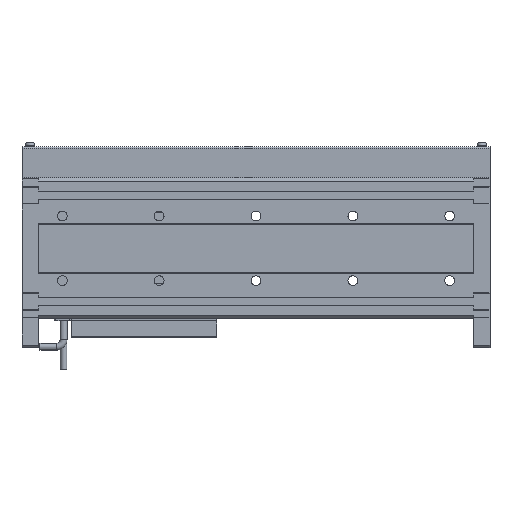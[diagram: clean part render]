
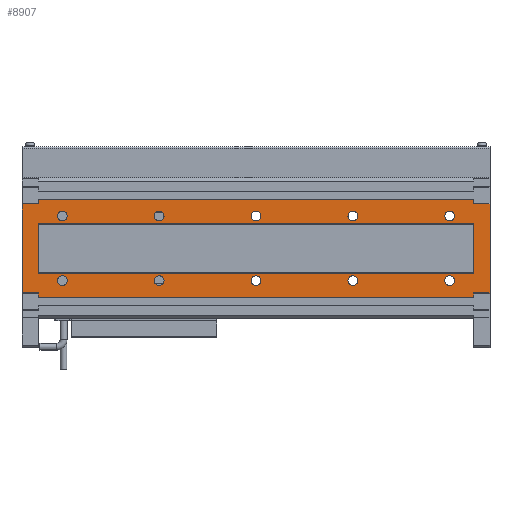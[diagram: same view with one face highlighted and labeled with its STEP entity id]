
A CAD part, front view. The second image highlights one B-rep face of the part: STEP entity #8907.
In plain terms, the highlighted planar face has unit normal (0, -1, 0).
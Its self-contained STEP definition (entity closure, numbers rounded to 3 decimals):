
#163=CIRCLE('',#9491,3.);
#164=CIRCLE('',#9492,3.);
#165=CIRCLE('',#9493,3.);
#166=CIRCLE('',#9494,3.);
#167=CIRCLE('',#9495,3.);
#168=CIRCLE('',#9496,3.);
#169=CIRCLE('',#9497,3.);
#170=CIRCLE('',#9498,3.);
#171=CIRCLE('',#9499,3.);
#172=CIRCLE('',#9500,3.);
#576=ORIENTED_EDGE('',*,*,#3093,.F.);
#577=ORIENTED_EDGE('',*,*,#3094,.F.);
#578=ORIENTED_EDGE('',*,*,#3095,.F.);
#579=ORIENTED_EDGE('',*,*,#3096,.F.);
#580=ORIENTED_EDGE('',*,*,#3097,.F.);
#581=ORIENTED_EDGE('',*,*,#3098,.F.);
#582=ORIENTED_EDGE('',*,*,#3099,.F.);
#583=ORIENTED_EDGE('',*,*,#3100,.F.);
#584=ORIENTED_EDGE('',*,*,#3101,.F.);
#585=ORIENTED_EDGE('',*,*,#3102,.F.);
#586=ORIENTED_EDGE('',*,*,#3084,.T.);
#587=ORIENTED_EDGE('',*,*,#3103,.T.);
#588=ORIENTED_EDGE('',*,*,#3092,.F.);
#589=ORIENTED_EDGE('',*,*,#3104,.F.);
#590=ORIENTED_EDGE('',*,*,#2991,.F.);
#591=ORIENTED_EDGE('',*,*,#3105,.T.);
#592=ORIENTED_EDGE('',*,*,#3106,.F.);
#593=ORIENTED_EDGE('',*,*,#3107,.F.);
#594=ORIENTED_EDGE('',*,*,#2987,.F.);
#595=ORIENTED_EDGE('',*,*,#3082,.F.);
#596=ORIENTED_EDGE('',*,*,#3024,.T.);
#597=ORIENTED_EDGE('',*,*,#3108,.F.);
#598=ORIENTED_EDGE('',*,*,#3109,.T.);
#599=ORIENTED_EDGE('',*,*,#3110,.T.);
#600=ORIENTED_EDGE('',*,*,#3029,.T.);
#601=ORIENTED_EDGE('',*,*,#3111,.T.);
#2987=EDGE_CURVE('',#4239,#4240,#5075,.T.);
#2991=EDGE_CURVE('',#4242,#4244,#5079,.T.);
#3024=EDGE_CURVE('',#4277,#4276,#5112,.T.);
#3029=EDGE_CURVE('',#4281,#4282,#5117,.T.);
#3082=EDGE_CURVE('',#4277,#4239,#5170,.T.);
#3084=EDGE_CURVE('',#4317,#4315,#5172,.T.);
#3092=EDGE_CURVE('',#4322,#4321,#5180,.T.);
#3093=EDGE_CURVE('',#4323,#4323,#163,.T.);
#3094=EDGE_CURVE('',#4324,#4324,#164,.T.);
#3095=EDGE_CURVE('',#4325,#4325,#165,.T.);
#3096=EDGE_CURVE('',#4326,#4326,#166,.T.);
#3097=EDGE_CURVE('',#4327,#4327,#167,.T.);
#3098=EDGE_CURVE('',#4328,#4328,#168,.T.);
#3099=EDGE_CURVE('',#4329,#4329,#169,.T.);
#3100=EDGE_CURVE('',#4330,#4330,#170,.T.);
#3101=EDGE_CURVE('',#4331,#4331,#171,.T.);
#3102=EDGE_CURVE('',#4332,#4332,#172,.T.);
#3103=EDGE_CURVE('',#4315,#4321,#5181,.T.);
#3104=EDGE_CURVE('',#4317,#4322,#5182,.T.);
#3105=EDGE_CURVE('',#4242,#4333,#5183,.T.);
#3106=EDGE_CURVE('',#4334,#4333,#5184,.T.);
#3107=EDGE_CURVE('',#4240,#4334,#5185,.T.);
#3108=EDGE_CURVE('',#4335,#4276,#5186,.T.);
#3109=EDGE_CURVE('',#4335,#4336,#5187,.T.);
#3110=EDGE_CURVE('',#4336,#4281,#5188,.T.);
#3111=EDGE_CURVE('',#4282,#4244,#5189,.T.);
#4239=VERTEX_POINT('',#12795);
#4240=VERTEX_POINT('',#12797);
#4242=VERTEX_POINT('',#12803);
#4244=VERTEX_POINT('',#12806);
#4276=VERTEX_POINT('',#12874);
#4277=VERTEX_POINT('',#12876);
#4281=VERTEX_POINT('',#12886);
#4282=VERTEX_POINT('',#12887);
#4315=VERTEX_POINT('',#12991);
#4317=VERTEX_POINT('',#12994);
#4321=VERTEX_POINT('',#13006);
#4322=VERTEX_POINT('',#13008);
#4323=VERTEX_POINT('',#13012);
#4324=VERTEX_POINT('',#13014);
#4325=VERTEX_POINT('',#13016);
#4326=VERTEX_POINT('',#13018);
#4327=VERTEX_POINT('',#13020);
#4328=VERTEX_POINT('',#13022);
#4329=VERTEX_POINT('',#13024);
#4330=VERTEX_POINT('',#13026);
#4331=VERTEX_POINT('',#13028);
#4332=VERTEX_POINT('',#13030);
#4333=VERTEX_POINT('',#13034);
#4334=VERTEX_POINT('',#13036);
#4335=VERTEX_POINT('',#13039);
#4336=VERTEX_POINT('',#13041);
#5075=LINE('',#12796,#6179);
#5079=LINE('',#12805,#6183);
#5112=LINE('',#12875,#6216);
#5117=LINE('',#12885,#6221);
#5170=LINE('',#12988,#6274);
#5172=LINE('',#12993,#6276);
#5180=LINE('',#13009,#6284);
#5181=LINE('',#13031,#6285);
#5182=LINE('',#13032,#6286);
#5183=LINE('',#13033,#6287);
#5184=LINE('',#13035,#6288);
#5185=LINE('',#13037,#6289);
#5186=LINE('',#13038,#6290);
#5187=LINE('',#13040,#6291);
#5188=LINE('',#13042,#6292);
#5189=LINE('',#13043,#6293);
#6179=VECTOR('',#10326,1000.);
#6183=VECTOR('',#10332,1000.);
#6216=VECTOR('',#10373,1000.);
#6221=VECTOR('',#10380,1000.);
#6274=VECTOR('',#10465,1000.);
#6276=VECTOR('',#10469,1000.);
#6284=VECTOR('',#10481,1000.);
#6285=VECTOR('',#10504,1000.);
#6286=VECTOR('',#10505,1000.);
#6287=VECTOR('',#10506,1000.);
#6288=VECTOR('',#10507,1000.);
#6289=VECTOR('',#10508,1000.);
#6290=VECTOR('',#10509,1000.);
#6291=VECTOR('',#10510,1000.);
#6292=VECTOR('',#10511,1000.);
#6293=VECTOR('',#10512,1000.);
#7275=EDGE_LOOP('',(#576));
#7276=EDGE_LOOP('',(#577));
#7277=EDGE_LOOP('',(#578));
#7278=EDGE_LOOP('',(#579));
#7279=EDGE_LOOP('',(#580));
#7280=EDGE_LOOP('',(#581));
#7281=EDGE_LOOP('',(#582));
#7282=EDGE_LOOP('',(#583));
#7283=EDGE_LOOP('',(#584));
#7284=EDGE_LOOP('',(#585));
#7285=EDGE_LOOP('',(#586,#587,#588,#589));
#7286=EDGE_LOOP('',(#590,#591,#592,#593,#594,#595,#596,#597,#598,#599,#600,
#601));
#7873=FACE_BOUND('',#7275,.T.);
#7874=FACE_BOUND('',#7276,.T.);
#7875=FACE_BOUND('',#7277,.T.);
#7876=FACE_BOUND('',#7278,.T.);
#7877=FACE_BOUND('',#7279,.T.);
#7878=FACE_BOUND('',#7280,.T.);
#7879=FACE_BOUND('',#7281,.T.);
#7880=FACE_BOUND('',#7282,.T.);
#7881=FACE_BOUND('',#7283,.T.);
#7882=FACE_BOUND('',#7284,.T.);
#7883=FACE_BOUND('',#7285,.T.);
#7884=FACE_BOUND('',#7286,.T.);
#8475=PLANE('',#9490);
#8907=ADVANCED_FACE('',(#7873,#7874,#7875,#7876,#7877,#7878,#7879,#7880,
#7881,#7882,#7883,#7884),#8475,.T.);
#9490=AXIS2_PLACEMENT_3D('',#13010,#10482,#10483);
#9491=AXIS2_PLACEMENT_3D('',#13011,#10484,#10485);
#9492=AXIS2_PLACEMENT_3D('',#13013,#10486,#10487);
#9493=AXIS2_PLACEMENT_3D('',#13015,#10488,#10489);
#9494=AXIS2_PLACEMENT_3D('',#13017,#10490,#10491);
#9495=AXIS2_PLACEMENT_3D('',#13019,#10492,#10493);
#9496=AXIS2_PLACEMENT_3D('',#13021,#10494,#10495);
#9497=AXIS2_PLACEMENT_3D('',#13023,#10496,#10497);
#9498=AXIS2_PLACEMENT_3D('',#13025,#10498,#10499);
#9499=AXIS2_PLACEMENT_3D('',#13027,#10500,#10501);
#9500=AXIS2_PLACEMENT_3D('',#13029,#10502,#10503);
#10326=DIRECTION('',(0.,0.,-1.));
#10332=DIRECTION('',(0.,0.,-1.));
#10373=DIRECTION('',(0.,0.,-1.));
#10380=DIRECTION('',(0.,0.,-1.));
#10465=DIRECTION('',(1.,0.,0.));
#10469=DIRECTION('',(1.,0.,0.));
#10481=DIRECTION('',(1.,0.,0.));
#10482=DIRECTION('',(0.,-1.,0.));
#10483=DIRECTION('',(0.,0.,-1.));
#10484=DIRECTION('',(0.,-1.,0.));
#10485=DIRECTION('',(0.,0.,-1.));
#10486=DIRECTION('',(0.,-1.,0.));
#10487=DIRECTION('',(0.,0.,-1.));
#10488=DIRECTION('',(0.,-1.,0.));
#10489=DIRECTION('',(0.,0.,-1.));
#10490=DIRECTION('',(0.,-1.,0.));
#10491=DIRECTION('',(0.,0.,-1.));
#10492=DIRECTION('',(0.,-1.,0.));
#10493=DIRECTION('',(0.,0.,-1.));
#10494=DIRECTION('',(0.,-1.,0.));
#10495=DIRECTION('',(0.,0.,-1.));
#10496=DIRECTION('',(0.,-1.,0.));
#10497=DIRECTION('',(0.,0.,-1.));
#10498=DIRECTION('',(0.,-1.,0.));
#10499=DIRECTION('',(0.,0.,-1.));
#10500=DIRECTION('',(0.,-1.,0.));
#10501=DIRECTION('',(0.,0.,-1.));
#10502=DIRECTION('',(0.,-1.,0.));
#10503=DIRECTION('',(0.,0.,-1.));
#10504=DIRECTION('',(0.,0.,-1.));
#10505=DIRECTION('',(0.,0.,-1.));
#10506=DIRECTION('',(1.,0.,0.));
#10507=DIRECTION('',(0.,0.,-1.));
#10508=DIRECTION('',(1.,0.,0.));
#10509=DIRECTION('',(1.,0.,0.));
#10510=DIRECTION('',(0.,0.,-1.));
#10511=DIRECTION('',(1.,0.,0.));
#10512=DIRECTION('',(1.,0.,0.));
#12795=CARTESIAN_POINT('',(-10.,0.,30.5));
#12796=CARTESIAN_POINT('',(-10.,0.,30.5));
#12797=CARTESIAN_POINT('',(-10.,0.,27.5));
#12803=CARTESIAN_POINT('',(-10.,0.,-27.5));
#12805=CARTESIAN_POINT('',(-10.,0.,-15.5));
#12806=CARTESIAN_POINT('',(-10.,0.,-30.5));
#12874=CARTESIAN_POINT('',(-280.,0.,27.5));
#12875=CARTESIAN_POINT('',(-280.,0.,30.5));
#12876=CARTESIAN_POINT('',(-280.,0.,30.5));
#12885=CARTESIAN_POINT('',(-280.,0.,-15.5));
#12886=CARTESIAN_POINT('',(-280.,0.,-27.5));
#12887=CARTESIAN_POINT('',(-280.,0.,-30.5));
#12988=CARTESIAN_POINT('',(-280.,0.,30.5));
#12991=CARTESIAN_POINT('',(-10.,0.,15.5));
#12993=CARTESIAN_POINT('',(-280.,0.,15.5));
#12994=CARTESIAN_POINT('',(-280.,0.,15.5));
#13006=CARTESIAN_POINT('',(-10.,0.,-15.5));
#13008=CARTESIAN_POINT('',(-280.,0.,-15.5));
#13009=CARTESIAN_POINT('',(-280.,0.,-15.5));
#13010=CARTESIAN_POINT('',(-280.,0.,-15.5));
#13011=CARTESIAN_POINT('',(-25.,0.,-20.));
#13012=CARTESIAN_POINT('',(-25.,0.,-23.));
#13013=CARTESIAN_POINT('',(-265.,0.,20.));
#13014=CARTESIAN_POINT('',(-265.,0.,17.));
#13015=CARTESIAN_POINT('',(-205.,0.,20.));
#13016=CARTESIAN_POINT('',(-205.,0.,17.));
#13017=CARTESIAN_POINT('',(-145.,0.,20.));
#13018=CARTESIAN_POINT('',(-145.,0.,17.));
#13019=CARTESIAN_POINT('',(-85.,0.,-20.));
#13020=CARTESIAN_POINT('',(-85.,0.,-23.));
#13021=CARTESIAN_POINT('',(-145.,0.,-20.));
#13022=CARTESIAN_POINT('',(-145.,0.,-23.));
#13023=CARTESIAN_POINT('',(-205.,0.,-20.));
#13024=CARTESIAN_POINT('',(-205.,0.,-23.));
#13025=CARTESIAN_POINT('',(-265.,0.,-20.));
#13026=CARTESIAN_POINT('',(-265.,0.,-23.));
#13027=CARTESIAN_POINT('',(-85.,0.,20.));
#13028=CARTESIAN_POINT('',(-85.,0.,17.));
#13029=CARTESIAN_POINT('',(-25.,0.,20.));
#13030=CARTESIAN_POINT('',(-25.,0.,17.));
#13031=CARTESIAN_POINT('',(-10.,0.,27.5));
#13032=CARTESIAN_POINT('',(-280.,0.,27.5));
#13033=CARTESIAN_POINT('',(-10.,0.,-27.5));
#13034=CARTESIAN_POINT('',(0.,0.,-27.5));
#13035=CARTESIAN_POINT('',(0.,0.,27.5));
#13036=CARTESIAN_POINT('',(0.,0.,27.5));
#13037=CARTESIAN_POINT('',(-10.,0.,27.5));
#13038=CARTESIAN_POINT('',(-290.,0.,27.5));
#13039=CARTESIAN_POINT('',(-290.,0.,27.5));
#13040=CARTESIAN_POINT('',(-290.,0.,27.5));
#13041=CARTESIAN_POINT('',(-290.,0.,-27.5));
#13042=CARTESIAN_POINT('',(-290.,0.,-27.5));
#13043=CARTESIAN_POINT('',(-280.,0.,-30.5));
